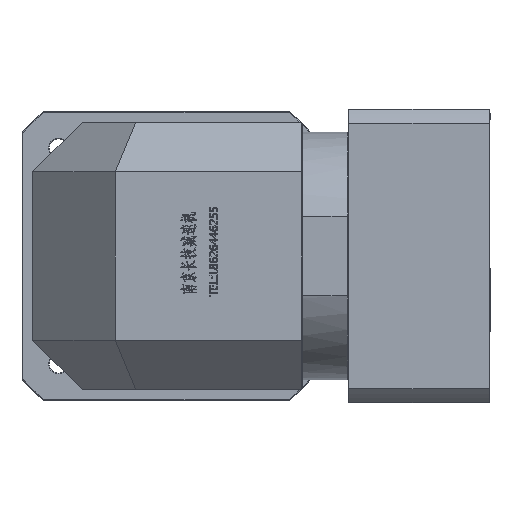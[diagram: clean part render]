
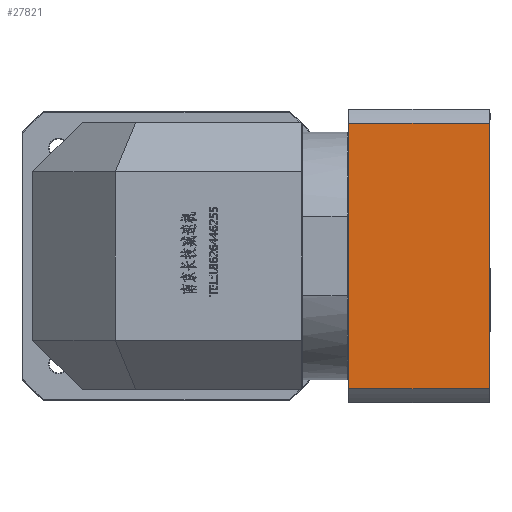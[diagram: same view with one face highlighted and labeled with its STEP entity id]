
A CAD part, left-side view. The second image highlights one B-rep face of the part: STEP entity #27821.
In plain terms, the highlighted planar face has unit normal (-1, 0, 0).
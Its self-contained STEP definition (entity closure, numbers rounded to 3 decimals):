
#2128 = LINE ( 'NONE', #38903, #125109 ) ;
#2481 = ORIENTED_EDGE ( 'NONE', *, *, #33876, .F. ) ;
#3329 = CARTESIAN_POINT ( 'NONE',  ( -84.254, -177.47, 194.713 ) ) ;
#5564 = VERTEX_POINT ( 'NONE', #152314 ) ;
#5891 = VECTOR ( 'NONE', #106378, 1000. ) ;
#11341 = LINE ( 'NONE', #104307, #5891 ) ;
#11546 = ORIENTED_EDGE ( 'NONE', *, *, #70929, .F. ) ;
#13690 = DIRECTION ( 'NONE',  ( 0., 0., 1. ) ) ;
#15407 = LINE ( 'NONE', #95326, #70531 ) ;
#27821 = ADVANCED_FACE ( 'NONE', ( #42970 ), #139661, .F. ) ;
#29670 = CARTESIAN_POINT ( 'NONE',  ( -84.254, -262.47, 194.713 ) ) ;
#33876 = EDGE_CURVE ( 'NONE', #5564, #68747, #11341, .T. ) ;
#38397 = DIRECTION ( 'NONE',  ( 0., -1., 0. ) ) ;
#38903 = CARTESIAN_POINT ( 'NONE',  ( -84.254, 165.836, 355.698 ) ) ;
#42970 = FACE_OUTER_BOUND ( 'NONE', #132584, .T. ) ;
#46367 = VECTOR ( 'NONE', #123299, 1000. ) ;
#68747 = VERTEX_POINT ( 'NONE', #29670 ) ;
#70248 = LINE ( 'NONE', #124276, #46367 ) ;
#70531 = VECTOR ( 'NONE', #13690, 1000. ) ;
#70929 = EDGE_CURVE ( 'NONE', #90705, #86941, #15407, .T. ) ;
#72370 = DIRECTION ( 'NONE',  ( 1., 0., 0. ) ) ;
#75129 = CARTESIAN_POINT ( 'NONE',  ( -84.254, -177.47, 355.698 ) ) ;
#78478 = AXIS2_PLACEMENT_3D ( 'NONE', #141692, #72370, #94980 ) ;
#86941 = VERTEX_POINT ( 'NONE', #75129 ) ;
#90705 = VERTEX_POINT ( 'NONE', #3329 ) ;
#94980 = DIRECTION ( 'NONE',  ( 0., 1., 0. ) ) ;
#95326 = CARTESIAN_POINT ( 'NONE',  ( -84.254, -177.47, 186.206 ) ) ;
#104307 = CARTESIAN_POINT ( 'NONE',  ( -84.254, -262.47, 194.206 ) ) ;
#106378 = DIRECTION ( 'NONE',  ( 0., 0., -1. ) ) ;
#107155 = ORIENTED_EDGE ( 'NONE', *, *, #147094, .F. ) ;
#123299 = DIRECTION ( 'NONE',  ( 0., 1., 0. ) ) ;
#124276 = CARTESIAN_POINT ( 'NONE',  ( -84.254, 165.836, 194.713 ) ) ;
#124739 = ORIENTED_EDGE ( 'NONE', *, *, #131793, .F. ) ;
#125109 = VECTOR ( 'NONE', #38397, 1000. ) ;
#131793 = EDGE_CURVE ( 'NONE', #68747, #90705, #70248, .T. ) ;
#132584 = EDGE_LOOP ( 'NONE', ( #107155, #11546, #124739, #2481 ) ) ;
#139661 = PLANE ( 'NONE',  #78478 ) ;
#141692 = CARTESIAN_POINT ( 'NONE',  ( -84.254, -262.97, 186.206 ) ) ;
#147094 = EDGE_CURVE ( 'NONE', #86941, #5564, #2128, .T. ) ;
#152314 = CARTESIAN_POINT ( 'NONE',  ( -84.254, -262.47, 355.698 ) ) ;
